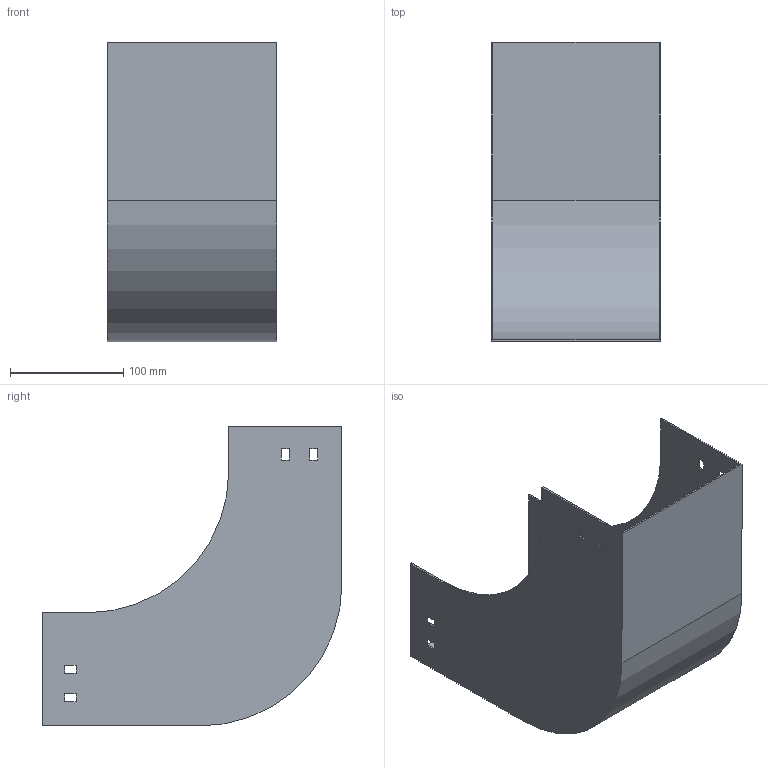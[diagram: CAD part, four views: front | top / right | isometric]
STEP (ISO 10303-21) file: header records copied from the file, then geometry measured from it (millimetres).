
FILE_DESCRIPTION (( 'STEP AP214' ), '1' );
FILE_NAME ('S9_151.step', '2025-07-16T09:27:47', ( '' ), ( '' ), 'SwSTEP 2.0', 'SolidWorks 2023', '' );
FILE_SCHEMA (( 'AUTOMOTIVE_DESIGN' ));
Length unit declared in the file: millimetre
Products named in the file (1): S9_151
Bounding box: 150 x 265 x 265 mm (x, y, z)
Volume: 232935.3 mm3; surface area: 312862 mm2
Topology: 1 solids, 1 shells, 50 faces, 144 edges, 96 vertices
Faces by surface type: plane 46, cylinder 4
Entity records: 1671 total; most frequent: CARTESIAN_POINT 291, ORIENTED_EDGE 288, DIRECTION 254, EDGE_CURVE 144, LINE 136, VECTOR 136, VERTEX_POINT 96, EDGE_LOOP 66
